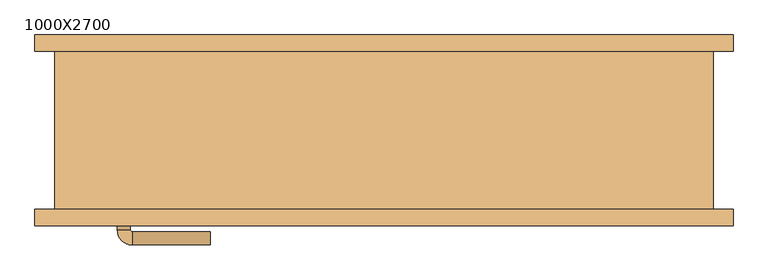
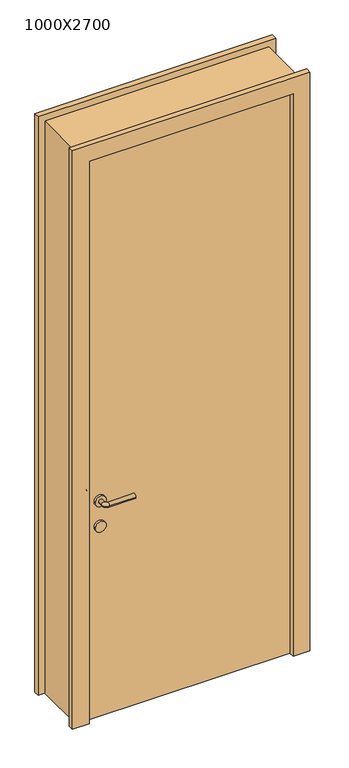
"""IFC4 building model written with IfcOpenShell, lengths in millimetres: door geometry, 单嵌板木门 1 : 1000X2700."""

from ifc_helpers import new_model, si_unit, point, frame, frame_2d, origin, origin_with_axes, place, context, project, spatial, polyline, circle_curve, ellipse_curve, trimmed, segment, composite_curve, outline, extrude, source, transform, mapped, element, save
from ifc_brep_helpers import plane_surface, cylinder_surface, revolved_surface, advanced_brep


def door_1000x2700_0706545c(model_context):
    return source(origin(), model_context, "Body", "SolidModel", [
        extrude(outline(composite_curve([segment(trimmed(circle_curve(frame_2d((900.0, -395.0)), 25.0), [point((900.0, -370.0))], [point((900.0, -420.0))], False, "CARTESIAN"), True, "CONTINUOUS"), segment(trimmed(circle_curve(frame_2d((900.0, -395.0)), 25.0), [point((900.0, -420.0))], [point((900.0, -370.0))], False, "CARTESIAN"), True, "CONTINUOUS")], self_intersect=False)), frame((0.0, -70.0, 0.0), z_axis=(0.0, 1.0, 0.0), x_axis=(0.0, 0.0, 1.0)), (0.0, 0.0, 1.0), 10.0),
        extrude(outline(composite_curve([segment(trimmed(circle_curve(frame_2d((900.0, -395.0)), 25.0), [point((900.0, -370.0))], [point((900.0, -420.0))], False, "CARTESIAN"), True, "CONTINUOUS"), segment(trimmed(circle_curve(frame_2d((900.0, -395.0)), 25.0), [point((900.0, -420.0))], [point((900.0, -370.0))], False, "CARTESIAN"), True, "CONTINUOUS")], self_intersect=False)), frame((0.0, -130.0, 0.0), z_axis=(0.0, 1.0, 0.0), x_axis=(0.0, 0.0, 1.0)), (0.0, 0.0, 1.0), 10.0),
        advanced_brep(
        [(-405.0, -60.0, 1020.0), (-385.0, -60.0, 1020.0), (-405.0, -39.386645, 1020.0), (-385.0, -39.386645, 1020.0), (-263.419036, -16.419036, 1020.0), (-263.419036, -36.419036, 1020.0), (-382.0323911, -36.419036, 1020.0), (-382.0323911, -16.419036, 1020.0)],
        [
            (0, 1, circle_curve(frame((-395.0, -60.0, 1020.0), z_axis=(0.0, -1.0, 0.0), x_axis=(1.0, 0.0, 0.0)), 10.0)),
            (1, 0, circle_curve(frame((-395.0, -60.0, 1020.0), z_axis=(0.0, -1.0, 0.0), x_axis=(1.0, 0.0, 0.0)), 10.0)),
            (0, 2),
            (2, 3, circle_curve(frame((-395.0, -39.386645, 1020.0), z_axis=(0.0, -1.0, 0.0), x_axis=(1.0, 0.0, 0.0)), 10.0)),
            (3, 1),
            (3, 2, circle_curve(frame((-395.0, -39.386645, 1020.0), z_axis=(0.0, -1.0, 0.0), x_axis=(1.0, 0.0, 0.0)), 10.0)),
            (4, 5, circle_curve(frame((-263.419036, -26.419036, 1020.0), z_axis=(1.0, 0.0, 0.0), x_axis=(0.0, -1.0, 0.0)), 10.0)),
            (5, 4, circle_curve(frame((-263.419036, -26.419036, 1020.0), z_axis=(1.0, 0.0, 0.0), x_axis=(0.0, -1.0, 0.0)), 10.0)),
            (6, 7, circle_curve(frame((-382.0323911, -26.419036, 1020.0), z_axis=(-1.0, 0.0, 0.0), x_axis=(0.0, -1.0, 0.0)), 10.0)),
            (7, 2, circle_curve(frame((-382.0323911, -39.386645, 1020.0), z_axis=(0.0, 0.0, 1.0), x_axis=(-1.0, 0.0, 0.0)), 22.9676089)),
            (3, 6, circle_curve(frame((-382.0323911, -39.386645, 1020.0), z_axis=(0.0, 0.0, -1.0), x_axis=(-1.0, 0.0, 0.0)), 2.9676089)),
            (7, 6, circle_curve(frame((-382.0323911, -26.419036, 1020.0), z_axis=(-1.0, 0.0, 0.0), x_axis=(0.0, -1.0, 0.0)), 10.0)),
            (6, 5),
            (4, 7),
        ],
        [
            plane_surface(frame((-395.0, -60.0, 900.0), z_axis=(0.0, -1.0, 0.0), x_axis=(0.0, 0.0, 1.0))),
            cylinder_surface(frame((-395.0, -60.0, 1020.0), z_axis=(0.0, -1.0, 0.0), x_axis=(1.0, 0.0, 0.0)), 10.0),
            plane_surface(frame((-263.419036, -26.419036, 900.0), z_axis=(1.0, 0.0, 0.0), x_axis=(0.0, 0.0, 1.0))),
            revolved_surface(trimmed(ellipse_curve(frame((-395.0, -39.386645, 1020.0), z_axis=(0.0, 1.0, 0.0), x_axis=(1.0, 0.0, 0.0)), 10.0, 10.0), [point((-405.0, -39.386645, 1020.0))], [point((-385.0, -39.386645, 1020.0))], True, "CARTESIAN"), (-382.0323911, -39.386645, 900.0), (0.0, 0.0, 1.0)),
            revolved_surface(trimmed(ellipse_curve(frame((-395.0, -39.386645, 1020.0), z_axis=(0.0, 1.0, 0.0), x_axis=(1.0, 0.0, 0.0)), 10.0, 10.0), [point((-385.0, -39.386645, 1020.0))], [point((-405.0, -39.386645, 1020.0))], True, "CARTESIAN"), (-382.0323911, -39.386645, 900.0), (0.0, 0.0, 1.0)),
            cylinder_surface(frame((-382.0323911, -26.419036, 1020.0), z_axis=(-1.0, 0.0, 0.0), x_axis=(0.0, -1.0, 0.0)), 10.0),
        ],
        [
            (0, [[1, 2]]),
            (1, [[3, 4, 5, -1]]),
            (1, [[-5, 6, -3, -2]]),
            (2, [[7, 8]]),
            (3, [[9, 10, -6, 11]]),
            (4, [[12, -11, -4, -10]]),
            (5, [[13, -7, 14, -9]]),
            (5, [[-14, -8, -13, -12]]),
        ],
    ),
        extrude(outline(composite_curve([segment(trimmed(circle_curve(frame_2d((1020.0, -395.0)), 25.0), [point((1020.0, -370.0))], [point((1020.0, -420.0))], False, "CARTESIAN"), True, "CONTINUOUS"), segment(trimmed(circle_curve(frame_2d((1020.0, -395.0)), 25.0), [point((1020.0, -420.0))], [point((1020.0, -370.0))], False, "CARTESIAN"), True, "CONTINUOUS")], self_intersect=False)), frame((0.0, -70.0, 0.0), z_axis=(0.0, 1.0, 0.0), x_axis=(0.0, 0.0, 1.0)), (0.0, 0.0, 1.0), 10.0),
        advanced_brep(
        [(-385.0, -130.0, 1020.0), (-405.0, -130.0, 1020.0), (-405.0, -150.6133551, 1020.0), (-385.0, -150.6133551, 1020.0), (-263.419036, -153.580964, 1020.0), (-263.419036, -173.580964, 1020.0), (-382.0323911, -173.580964, 1020.0), (-382.0323911, -153.580964, 1020.0)],
        [
            (0, 1, circle_curve(frame((-395.0, -130.0, 1020.0), z_axis=(0.0, 1.0, 0.0), x_axis=(-1.0, 0.0, 0.0)), 10.0)),
            (1, 0, circle_curve(frame((-395.0, -130.0, 1020.0), z_axis=(0.0, 1.0, 0.0), x_axis=(-1.0, 0.0, 0.0)), 10.0)),
            (1, 2),
            (2, 3, circle_curve(frame((-395.0, -150.6133551, 1020.0), z_axis=(0.0, 1.0, 0.0), x_axis=(-1.0, 0.0, 0.0)), 10.0)),
            (3, 0),
            (3, 2, circle_curve(frame((-395.0, -150.6133551, 1020.0), z_axis=(0.0, 1.0, 0.0), x_axis=(-1.0, 0.0, 0.0)), 10.0)),
            (4, 5, circle_curve(frame((-263.419036, -163.580964, 1020.0), z_axis=(1.0, 0.0, 0.0), x_axis=(0.0, -1.0, 0.0)), 10.0)),
            (5, 4, circle_curve(frame((-263.419036, -163.580964, 1020.0), z_axis=(1.0, 0.0, 0.0), x_axis=(0.0, -1.0, 0.0)), 10.0)),
            (6, 7, circle_curve(frame((-382.0323911, -163.580964, 1020.0), z_axis=(-1.0, 0.0, 0.0), x_axis=(0.0, -1.0, 0.0)), 10.0)),
            (7, 3, circle_curve(frame((-382.0323911, -150.6133551, 1020.0), z_axis=(0.0, 0.0, -1.0), x_axis=(-1.0, 0.0, 0.0)), 2.9676089)),
            (2, 6, circle_curve(frame((-382.0323911, -150.6133551, 1020.0), z_axis=(0.0, 0.0, 1.0), x_axis=(-1.0, 0.0, 0.0)), 22.9676089)),
            (7, 6, circle_curve(frame((-382.0323911, -163.580964, 1020.0), z_axis=(-1.0, 0.0, 0.0), x_axis=(0.0, -1.0, 0.0)), 10.0)),
            (6, 5),
            (4, 7),
        ],
        [
            plane_surface(frame((-395.0, -130.0, 900.0), z_axis=(0.0, 1.0, 0.0), x_axis=(0.0, 0.0, 1.0))),
            cylinder_surface(frame((-395.0, -130.0, 1020.0), z_axis=(0.0, 1.0, 0.0), x_axis=(-1.0, 0.0, 0.0)), 10.0),
            plane_surface(frame((-263.419036, -163.580964, 900.0), z_axis=(1.0, 0.0, 0.0), x_axis=(0.0, 0.0, 1.0))),
            revolved_surface(trimmed(ellipse_curve(frame((-395.0, -150.6133551, 1020.0), z_axis=(0.0, -1.0, 0.0), x_axis=(-1.0, 0.0, 0.0)), 10.0, 10.0), [point((-385.0, -150.6133551, 1020.0))], [point((-405.0, -150.6133551, 1020.0))], True, "CARTESIAN"), (-382.0323911, -150.6133551, 900.0), (0.0, 0.0, -1.0)),
            revolved_surface(trimmed(ellipse_curve(frame((-395.0, -150.6133551, 1020.0), z_axis=(0.0, -1.0, 0.0), x_axis=(-1.0, 0.0, 0.0)), 10.0, 10.0), [point((-405.0, -150.6133551, 1020.0))], [point((-385.0, -150.6133551, 1020.0))], True, "CARTESIAN"), (-382.0323911, -150.6133551, 900.0), (0.0, 0.0, -1.0)),
            cylinder_surface(frame((-382.0323911, -163.580964, 1020.0), z_axis=(-1.0, 0.0, 0.0), x_axis=(0.0, -1.0, 0.0)), 10.0),
        ],
        [
            (0, [[1, 2]]),
            (1, [[3, 4, 5, -2]]),
            (1, [[-5, 6, -3, -1]]),
            (2, [[7, 8]]),
            (3, [[9, 10, -4, 11]]),
            (4, [[12, -11, -6, -10]]),
            (5, [[13, -7, 14, -9]]),
            (5, [[-14, -8, -13, -12]]),
        ],
    ),
        extrude(outline(composite_curve([segment(trimmed(circle_curve(frame_2d((1020.0, -395.0)), 25.0), [point((1020.0, -370.0))], [point((1020.0, -420.0))], False, "CARTESIAN"), True, "CONTINUOUS"), segment(trimmed(circle_curve(frame_2d((1020.0, -395.0)), 25.0), [point((1020.0, -420.0))], [point((1020.0, -370.0))], False, "CARTESIAN"), True, "CONTINUOUS")], self_intersect=False)), frame((0.0, -130.0, 0.0), z_axis=(0.0, 1.0, 0.0), x_axis=(0.0, 0.0, 1.0)), (0.0, 0.0, 1.0), 10.0),
        extrude(outline(polyline([(0.0, 530.0), (2730.0, 530.0), (2730.0, -530.0), (0.0, -530.0), (0.0, -455.0), (2655.0, -455.0), (2655.0, 455.0), (0.0, 455.0), (0.0, 530.0)])), frame((0.0, -145.0, 0.0), z_axis=(0.0, 1.0, 0.0), x_axis=(0.0, 0.0, 1.0)), (0.0, 0.0, 1.0), 25.0),
        extrude(outline(polyline([(2730.0, 530.0), (2730.0, -530.0), (0.0, -530.0), (0.0, -455.0), (2655.0, -455.0), (2655.0, 455.0), (0.0, 455.0), (0.0, 530.0), (2730.0, 530.0)])), frame((0.0, 120.0, 0.0), z_axis=(0.0, 1.0, 0.0), x_axis=(0.0, 0.0, 1.0)), (0.0, 0.0, 1.0), 25.0),
        extrude(outline(polyline([(455.0, -70.0), (455.0, -120.0), (-455.0, -120.0), (-455.0, -70.0), (455.0, -70.0)])), origin_with_axes(), (0.0, 0.0, 1.0), 2655.0),
        extrude(outline(polyline([(2700.0, -500.0), (0.0, -500.0), (0.0, -455.0), (2655.0, -455.0), (2655.0, 455.0), (0.0, 455.0), (0.0, 500.0), (2700.0, 500.0), (2700.0, -500.0)])), frame((0.0, -120.0, 0.0), z_axis=(0.0, 1.0, 0.0), x_axis=(0.0, 0.0, 1.0)), (0.0, 0.0, 1.0), 240.0),
    ])


if __name__ == "__main__":
    model = new_model("IFC4")
    model_context = context("Model", 3, world=origin())
    ifc_project = project(units=[si_unit("LENGTHUNIT", "METRE", prefix="MILLI")], contexts=[model_context])
    site = spatial("IfcSite", under=ifc_project)
    building = spatial("IfcBuilding", under=site)
    placement = place(None, origin())
    door_1000x2700_shape = door_1000x2700_0706545c(model_context)
    element("IfcDoor", 1, ObjectType="单嵌板木门 1 : 1000X2700", at=placement, inside=building, context=model_context, shape_type="MappedRepresentation", body=[
        mapped(door_1000x2700_shape, transform((0.0, 0.0, 0.0), x_axis=(1.0, 0.0, 0.0), y_axis=(0.0, 1.0, 0.0), z_axis=(0.0, 0.0, 1.0))),
    ])
    save(model, "model.ifc")
